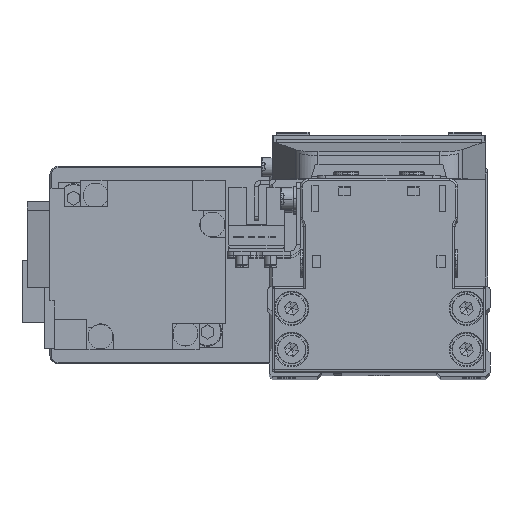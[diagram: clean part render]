
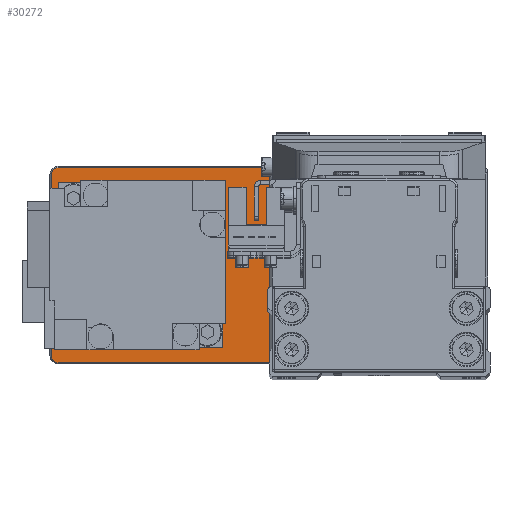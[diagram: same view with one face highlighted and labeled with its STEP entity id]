
A CAD part, top view. The second image highlights one B-rep face of the part: STEP entity #30272.
In plain terms, the highlighted planar face has unit normal (0, 0, 1).
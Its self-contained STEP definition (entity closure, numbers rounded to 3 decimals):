
#523 = VECTOR ( 'NONE', #3329, 1000. ) ;
#623 = ORIENTED_EDGE ( 'NONE', *, *, #23048, .T. ) ;
#895 = DIRECTION ( 'NONE',  ( 0., 1., 0. ) ) ;
#1172 = DIRECTION ( 'NONE',  ( 1., 0., 0. ) ) ;
#1279 = DIRECTION ( 'NONE',  ( 1., 0., 0. ) ) ;
#1370 = CARTESIAN_POINT ( 'NONE',  ( 0., 0., 5. ) ) ;
#1402 = CARTESIAN_POINT ( 'NONE',  ( -17.7, 0., 5. ) ) ;
#2027 = CARTESIAN_POINT ( 'NONE',  ( 50., -22., 5. ) ) ;
#2739 = CARTESIAN_POINT ( 'NONE',  ( 51.7, 22., 5. ) ) ;
#2785 = AXIS2_PLACEMENT_3D ( 'NONE', #2027, #14358, #26731 ) ;
#3132 = ORIENTED_EDGE ( 'NONE', *, *, #33774, .T. ) ;
#3329 = DIRECTION ( 'NONE',  ( 0., -1., 0. ) ) ;
#3346 = AXIS2_PLACEMENT_3D ( 'NONE', #20254, #32616, #4875 ) ;
#3535 = CARTESIAN_POINT ( 'NONE',  ( 50., 23.7, 5. ) ) ;
#3682 = CARTESIAN_POINT ( 'NONE',  ( 30., 0., 5. ) ) ;
#4079 = CIRCLE ( 'NONE', #9256, 1.7 ) ;
#4138 = DIRECTION ( 'NONE',  ( -1., 0., 0. ) ) ;
#4416 = FACE_BOUND ( 'NONE', #24536, .T. ) ;
#4478 = CARTESIAN_POINT ( 'NONE',  ( 51.7, -22., 5. ) ) ;
#4608 = CARTESIAN_POINT ( 'NONE',  ( 50., -23.7, 5. ) ) ;
#4875 = DIRECTION ( 'NONE',  ( 1., 0., 0. ) ) ;
#5533 = EDGE_CURVE ( 'NONE', #37339, #32743, #27221, .T. ) ;
#6049 = CARTESIAN_POINT ( 'NONE',  ( -51.7, -22., 5. ) ) ;
#6807 = AXIS2_PLACEMENT_3D ( 'NONE', #16539, #28917, #1172 ) ;
#6907 = VERTEX_POINT ( 'NONE', #6049 ) ;
#7227 = VECTOR ( 'NONE', #895, 1000. ) ;
#7547 = AXIS2_PLACEMENT_3D ( 'NONE', #39886, #12129, #24485 ) ;
#7848 = LINE ( 'NONE', #20202, #27939 ) ;
#8085 = CARTESIAN_POINT ( 'NONE',  ( -50., 22., 5. ) ) ;
#8088 = DIRECTION ( 'NONE',  ( 1., 0., 0. ) ) ;
#9123 = VERTEX_POINT ( 'NONE', #2739 ) ;
#9226 = EDGE_CURVE ( 'NONE', #12490, #6907, #18702, .T. ) ;
#9256 = AXIS2_PLACEMENT_3D ( 'NONE', #8085, #20440, #32796 ) ;
#9747 = AXIS2_PLACEMENT_3D ( 'NONE', #23466, #35835, #8088 ) ;
#10091 = ORIENTED_EDGE ( 'NONE', *, *, #14805, .T. ) ;
#12129 = DIRECTION ( 'NONE',  ( 0., 0., -1. ) ) ;
#12490 = VERTEX_POINT ( 'NONE', #13028 ) ;
#13028 = CARTESIAN_POINT ( 'NONE',  ( -51.7, 22., 5. ) ) ;
#13643 = ORIENTED_EDGE ( 'NONE', *, *, #9226, .T. ) ;
#13706 = DIRECTION ( 'NONE',  ( 0., 0., 1. ) ) ;
#14302 = EDGE_CURVE ( 'NONE', #29081, #39963, #20796, .T. ) ;
#14358 = DIRECTION ( 'NONE',  ( 0., 0., 1. ) ) ;
#14805 = EDGE_CURVE ( 'NONE', #19347, #26914, #7848, .T. ) ;
#15561 = ORIENTED_EDGE ( 'NONE', *, *, #19575, .T. ) ;
#15889 = CARTESIAN_POINT ( 'NONE',  ( -38.3, 0., 5. ) ) ;
#16008 = DIRECTION ( 'NONE',  ( 0., 0., -1. ) ) ;
#16194 = EDGE_CURVE ( 'NONE', #16643, #9123, #16259, .T. ) ;
#16259 = LINE ( 'NONE', #28639, #7227 ) ;
#16267 = ORIENTED_EDGE ( 'NONE', *, *, #28663, .T. ) ;
#16539 = CARTESIAN_POINT ( 'NONE',  ( 50., 22., 5. ) ) ;
#16643 = VERTEX_POINT ( 'NONE', #4478 ) ;
#16656 = CARTESIAN_POINT ( 'NONE',  ( -50., -22., 5. ) ) ;
#16745 = FACE_OUTER_BOUND ( 'NONE', #17725, .T. ) ;
#17725 = EDGE_LOOP ( 'NONE', ( #10091, #16267, #27153, #3132, #33175, #15561, #13643, #34614 ) ) ;
#17877 = ORIENTED_EDGE ( 'NONE', *, *, #14302, .T. ) ;
#18702 = LINE ( 'NONE', #31062, #523 ) ;
#18793 = AXIS2_PLACEMENT_3D ( 'NONE', #3682, #16008, #28379 ) ;
#18861 = AXIS2_PLACEMENT_3D ( 'NONE', #16656, #29028, #1279 ) ;
#19347 = VERTEX_POINT ( 'NONE', #30437 ) ;
#19513 = LINE ( 'NONE', #31870, #38524 ) ;
#19575 = EDGE_CURVE ( 'NONE', #39778, #12490, #4079, .T. ) ;
#20202 = CARTESIAN_POINT ( 'NONE',  ( 50., -23.7, 5. ) ) ;
#20224 = CIRCLE ( 'NONE', #2785, 1.7 ) ;
#20254 = CARTESIAN_POINT ( 'NONE',  ( 30., 0., 5. ) ) ;
#20440 = DIRECTION ( 'NONE',  ( 0., 0., 1. ) ) ;
#20796 = CIRCLE ( 'NONE', #3346, 12.8 ) ;
#21883 = EDGE_CURVE ( 'NONE', #25891, #39778, #19513, .T. ) ;
#22534 = CARTESIAN_POINT ( 'NONE',  ( 17.2, 0., 5. ) ) ;
#22993 = EDGE_LOOP ( 'NONE', ( #17877, #30502 ) ) ;
#23048 = EDGE_CURVE ( 'NONE', #32743, #37339, #25026, .T. ) ;
#23145 = ORIENTED_EDGE ( 'NONE', *, *, #5533, .T. ) ;
#23466 = CARTESIAN_POINT ( 'NONE',  ( -28., 0., 5. ) ) ;
#24277 = CIRCLE ( 'NONE', #6807, 1.7 ) ;
#24485 = DIRECTION ( 'NONE',  ( 1., 0., 0. ) ) ;
#24536 = EDGE_LOOP ( 'NONE', ( #23145, #623 ) ) ;
#25026 = CIRCLE ( 'NONE', #7547, 10.3 ) ;
#25108 = EDGE_CURVE ( 'NONE', #39963, #29081, #36282, .T. ) ;
#25891 = VERTEX_POINT ( 'NONE', #3535 ) ;
#26048 = EDGE_CURVE ( 'NONE', #6907, #19347, #36339, .T. ) ;
#26080 = DIRECTION ( 'NONE',  ( 1., 0., 0. ) ) ;
#26731 = DIRECTION ( 'NONE',  ( 1., 0., 0. ) ) ;
#26914 = VERTEX_POINT ( 'NONE', #4608 ) ;
#27153 = ORIENTED_EDGE ( 'NONE', *, *, #16194, .T. ) ;
#27221 = CIRCLE ( 'NONE', #9747, 10.3 ) ;
#27939 = VECTOR ( 'NONE', #32562, 1000. ) ;
#28379 = DIRECTION ( 'NONE',  ( 1., 0., 0. ) ) ;
#28639 = CARTESIAN_POINT ( 'NONE',  ( 51.7, 22., 5. ) ) ;
#28663 = EDGE_CURVE ( 'NONE', #26914, #16643, #20224, .T. ) ;
#28917 = DIRECTION ( 'NONE',  ( 0., 0., 1. ) ) ;
#29028 = DIRECTION ( 'NONE',  ( 0., 0., 1. ) ) ;
#29081 = VERTEX_POINT ( 'NONE', #36005 ) ;
#29112 = PLANE ( 'NONE',  #35199 ) ;
#30272 = ADVANCED_FACE ( 'NONE', ( #32153, #4416, #16745 ), #29112, .T. ) ;
#30437 = CARTESIAN_POINT ( 'NONE',  ( -50., -23.7, 5. ) ) ;
#30502 = ORIENTED_EDGE ( 'NONE', *, *, #25108, .T. ) ;
#31062 = CARTESIAN_POINT ( 'NONE',  ( -51.7, -22., 5. ) ) ;
#31870 = CARTESIAN_POINT ( 'NONE',  ( -50., 23.7, 5. ) ) ;
#32153 = FACE_BOUND ( 'NONE', #22993, .T. ) ;
#32562 = DIRECTION ( 'NONE',  ( 1., 0., 0. ) ) ;
#32616 = DIRECTION ( 'NONE',  ( 0., 0., -1. ) ) ;
#32743 = VERTEX_POINT ( 'NONE', #15889 ) ;
#32796 = DIRECTION ( 'NONE',  ( 1., 0., 0. ) ) ;
#33175 = ORIENTED_EDGE ( 'NONE', *, *, #21883, .T. ) ;
#33774 = EDGE_CURVE ( 'NONE', #9123, #25891, #24277, .T. ) ;
#34614 = ORIENTED_EDGE ( 'NONE', *, *, #26048, .T. ) ;
#35199 = AXIS2_PLACEMENT_3D ( 'NONE', #1370, #13706, #26080 ) ;
#35835 = DIRECTION ( 'NONE',  ( 0., 0., -1. ) ) ;
#36005 = CARTESIAN_POINT ( 'NONE',  ( 42.8, 0., 5. ) ) ;
#36282 = CIRCLE ( 'NONE', #18793, 12.8 ) ;
#36339 = CIRCLE ( 'NONE', #18861, 1.7 ) ;
#37339 = VERTEX_POINT ( 'NONE', #1402 ) ;
#38524 = VECTOR ( 'NONE', #4138, 1000. ) ;
#39778 = VERTEX_POINT ( 'NONE', #39797 ) ;
#39797 = CARTESIAN_POINT ( 'NONE',  ( -50., 23.7, 5. ) ) ;
#39886 = CARTESIAN_POINT ( 'NONE',  ( -28., 0., 5. ) ) ;
#39963 = VERTEX_POINT ( 'NONE', #22534 ) ;
